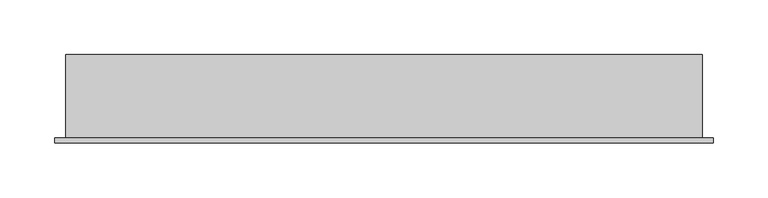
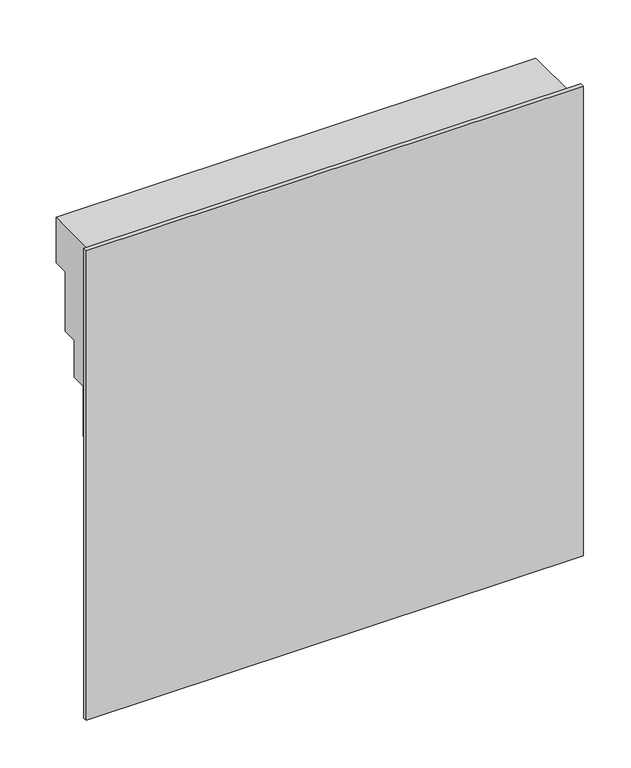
"""IFC4 building model written with IfcOpenShell, lengths in millimetres: plate geometry, Construction_Ceilings_Qwel-Tiles_Terra-Molded-Acoustic-Ceiling-Tiles : Terra (Charcoal Heather)."""

from ifc_helpers import new_model, si_unit, frame, origin, place, context, project, spatial, polyline, circle_curve, outline, extrude, source, transform, mapped, element, save
from ifc_brep_helpers import plane_surface, revolved_surface, advanced_brep


def plate_3a2f0570(model_context):
    return source(origin(), model_context, "Body", "SolidModel", [
        advanced_brep(
        [(290.8101563, 4.9609375, 595.6101563), (290.8101563, 81.1082644, 595.6101563), (-290.8101562, 81.1082644, 595.6101563), (-290.8101562, 4.9609375, 595.6101563), (290.8101562, 4.9609375, 13.9898438), (-290.8101562, 4.9609375, 13.9898438), (-290.8101562, 5.3578125, 13.9898438), (45.2139594, 5.3578125, 13.9898438), (45.2139594, 24.0011217, 13.9898438), (108.7057833, 24.0011217, 13.9898438), (108.7057833, 43.0511081, 13.9898438), (156.3229695, 43.0511081, 13.9898438), (156.3229695, 62.1010648, 13.9898438), (232.5082728, 62.1010648, 13.9898438), (232.5082728, 81.1082644, 13.9898438), (290.8101562, 81.1082644, 13.9898438), (232.5082728, 81.1082644, 321.0691428), (16.2765586, 81.1082644, 537.3008571), (-290.8101562, 81.1082644, 537.3008571), (232.5082728, 62.1010648, 321.0691428), (156.3229695, 62.1010648, 321.0691428), (16.2765586, 62.1010648, 461.1155537), (-290.8101563, 62.1010648, 461.1155537), (-290.8101562, 62.1010648, 537.3008571), (16.2765586, 62.1010648, 537.3008571), (156.3229695, 43.0511081, 321.0691428), (108.7057833, 43.0511081, 321.0691428), (16.2765586, 43.0511081, 413.4983676), (-290.8101563, 43.0511081, 413.4983676), (-290.8101562, 43.0511081, 461.1155537), (16.2765586, 43.0511081, 461.1155537), (108.7057833, 24.0011217, 321.0691428), (16.2765586, 24.0011217, 413.4983676), (-290.8101563, 24.0011217, 413.4983676), (45.2139594, 24.0011217, 321.0691428), (16.2765586, 24.0011217, 350.0065436), (-290.8101563, 24.0011217, 350.0065436), (45.2139594, 5.3578125, 321.0691428), (16.2765586, 5.3578125, 350.0065436), (-290.8101563, 5.3578125, 350.0065436)],
        [
            (0, 1),
            (1, 2),
            (2, 3),
            (3, 0),
            (4, 5),
            (5, 6),
            (6, 7),
            (7, 8),
            (8, 9),
            (9, 10),
            (10, 11),
            (11, 12),
            (12, 13),
            (13, 14),
            (14, 15),
            (15, 4),
            (3, 5),
            (4, 0),
            (1, 15),
            (14, 16),
            (16, 17, circle_curve(frame((16.2765586, 81.1082644, 321.0691428), z_axis=(0.0, -1.0, 0.0), x_axis=(1.0, 0.0, 0.0)), 216.2317143)),
            (17, 18),
            (18, 2),
            (13, 19),
            (19, 16),
            (12, 20),
            (20, 21, circle_curve(frame((16.2765586, 62.1010648, 321.0691428), z_axis=(0.0, -1.0, 0.0), x_axis=(1.0, 0.0, 0.0)), 140.0464109)),
            (21, 22),
            (22, 23),
            (23, 24),
            (24, 19, circle_curve(frame((16.2765586, 62.1010648, 321.0691428), z_axis=(0.0, 1.0, 0.0), x_axis=(1.0, 0.0, 0.0)), 216.2317143)),
            (11, 25),
            (25, 20),
            (10, 26),
            (26, 27, circle_curve(frame((16.2765586, 43.0511081, 321.0691428), z_axis=(0.0, -1.0, 0.0), x_axis=(1.0, 0.0, 0.0)), 92.4292248)),
            (27, 28),
            (28, 29),
            (29, 30),
            (30, 25, circle_curve(frame((16.2765586, 43.0511081, 321.0691428), z_axis=(0.0, 1.0, 0.0), x_axis=(1.0, 0.0, 0.0)), 140.0464109)),
            (9, 31),
            (31, 26),
            (24, 17),
            (30, 21),
            (31, 32, circle_curve(frame((16.2765586, 24.0011217, 321.0691428), z_axis=(0.0, -1.0, 0.0), x_axis=(1.0, 0.0, 0.0)), 92.4292248)),
            (32, 27),
            (23, 18),
            (29, 22),
            (32, 33),
            (33, 28),
            (8, 34),
            (34, 35, circle_curve(frame((16.2765586, 24.0011217, 321.0691428), z_axis=(0.0, -1.0, 0.0), x_axis=(1.0, 0.0, 0.0)), 28.9374008)),
            (35, 36),
            (36, 33),
            (7, 37),
            (37, 34),
            (37, 38, circle_curve(frame((16.2765586, 5.3578125, 321.0691428), z_axis=(0.0, -1.0, 0.0), x_axis=(1.0, 0.0, 0.0)), 28.9374008)),
            (38, 35),
            (38, 39),
            (39, 36),
            (39, 6),
        ],
        [
            plane_surface(frame((290.8101563, 4.9609375, 595.6101563), z_axis=(0.0, 0.0, 1.0), x_axis=(0.0, 1.0, 0.0))),
            plane_surface(frame((290.8101562, 4.9609375, 13.9898438), z_axis=(0.0, 0.0, -1.0), x_axis=(0.0, -1.0, 0.0))),
            plane_surface(frame((-290.8101562, 4.9609375, 595.6101563), z_axis=(0.0, -1.0, 0.0), x_axis=(0.0, 0.0, -1.0))),
            plane_surface(frame((290.8101563, 81.1082644, 595.6101563), z_axis=(0.0, 1.0, 0.0), x_axis=(0.0, 0.0, -1.0))),
            plane_surface(frame((232.5082728, 81.1082644, 13.9898438), z_axis=(-1.0, 0.0, 0.0), x_axis=(0.0, 0.0, 1.0))),
            plane_surface(frame((232.5082728, 62.1010648, 13.9898438), z_axis=(0.0, 1.0, 0.0), x_axis=(0.0, 0.0, 1.0))),
            plane_surface(frame((156.3229695, 62.1010648, 13.9898438), z_axis=(-1.0, 0.0, 0.0), x_axis=(0.0, 0.0, 1.0))),
            plane_surface(frame((156.3229695, 43.0511081, 13.9898438), z_axis=(0.0, 1.0, 0.0), x_axis=(0.0, 0.0, 1.0))),
            plane_surface(frame((108.7057833, 43.0511081, 13.9898438), z_axis=(-1.0, 0.0, 0.0), x_axis=(0.0, 0.0, 1.0))),
            revolved_surface(polyline([(232.5082729, 62.1010648, 321.0691428), (232.5082729, 81.1082644, 321.0691428)]), (16.2765586, 4.9609375, 321.0691428), (0.0, -1.0, 0.0)),
            revolved_surface(polyline([(156.3229695, 43.0511081, 321.0691428), (156.3229695, 62.1010648, 321.0691428)]), (16.2765586, 4.9609375, 321.0691428), (0.0, -1.0, 0.0)),
            revolved_surface(polyline([(108.7057834, 24.0011217, 321.0691428), (108.7057834, 43.0511081, 321.0691428)]), (16.2765586, 4.9609375, 321.0691428), (0.0, -1.0, 0.0)),
            plane_surface(frame((16.2765586, 81.1082644, 537.3008571), z_axis=(0.0, 0.0, -1.0), x_axis=(-1.0, 0.0, 0.0))),
            plane_surface(frame((16.2765586, 62.1010648, 461.1155537), z_axis=(0.0, 0.0, -1.0), x_axis=(-1.0, 0.0, 0.0))),
            plane_surface(frame((16.2765586, 43.0511081, 413.4983676), z_axis=(0.0, 0.0, -1.0), x_axis=(-1.0, 0.0, 0.0))),
            plane_surface(frame((108.7057833, 24.0011217, 13.9898438), z_axis=(0.0, 1.0, 0.0), x_axis=(0.0, 0.0, 1.0))),
            plane_surface(frame((45.2139594, 24.0011217, 13.9898438), z_axis=(-1.0, 0.0, 0.0), x_axis=(0.0, 0.0, 1.0))),
            revolved_surface(polyline([(45.2139594, 5.3578125, 321.0691428), (45.2139594, 24.0011217, 321.0691428)]), (16.2765586, 4.9609375, 321.0691428), (0.0, -1.0, 0.0)),
            plane_surface(frame((16.2765586, 24.0011217, 350.0065436), z_axis=(0.0, 0.0, -1.0), x_axis=(-1.0, 0.0, 0.0))),
            plane_surface(frame((290.8101563, 4.9609375, 595.6101563), z_axis=(1.0, 0.0, 0.0), x_axis=(0.0, 0.0, -1.0))),
            plane_surface(frame((-290.8101562, 81.1082644, 595.6101563), z_axis=(-1.0, 0.0, 0.0), x_axis=(0.0, 0.0, -1.0))),
            plane_surface(frame((45.2139594, 5.3578125, 13.9898438), z_axis=(0.0, 1.0, 0.0), x_axis=(0.0, 0.0, 1.0))),
        ],
        [
            (0, [[1, 2, 3, 4]]),
            (1, [[5, 6, 7, 8, 9, 10, 11, 12, 13, 14, 15, 16]]),
            (2, [[-4, 17, -5, 18]]),
            (3, [[-2, 19, -15, 20, 21, 22, 23]]),
            (4, [[24, 25, -20, -14]]),
            (5, [[-24, -13, 26, 27, 28, 29, 30, 31]]),
            (6, [[-26, -12, 32, 33]]),
            (7, [[-32, -11, 34, 35, 36, 37, 38, 39]]),
            (8, [[-34, -10, 40, 41]]),
            (9, [[-25, -31, 42, -21]]),
            (10, [[-27, -33, -39, 43]]),
            (11, [[-35, -41, 44, 45]]),
            (12, [[-30, 46, -22, -42]]),
            (13, [[-28, -43, -38, 47]]),
            (14, [[-36, -45, 48, 49]]),
            (15, [[-40, -9, 50, 51, 52, 53, -48, -44]]),
            (16, [[-50, -8, 54, 55]]),
            (17, [[-51, -55, 56, 57]]),
            (18, [[-52, -57, 58, 59]]),
            (19, [[-1, -18, -16, -19]]),
            (20, [[-3, -23, -46, -29, -47, -37, -49, -53, -59, 60, -6, -17]]),
            (21, [[-54, -7, -60, -58, -56]]),
        ],
    ),
        extrude(outline(polyline([(300.99, 0.0), (-300.99, 0.0), (-300.99, 4.9609375), (300.99, 4.9609375), (300.99, 0.0)])), frame((0.0, 0.0, 3.81), z_axis=(0.0, 0.0, 1.0), x_axis=(1.0, 0.0, 0.0)), (0.0, 0.0, 1.0), 601.98),
    ])


if __name__ == "__main__":
    model = new_model("IFC4")
    model_context = context("Model", 3, world=origin())
    ifc_project = project(units=[si_unit("LENGTHUNIT", "METRE", prefix="MILLI")], contexts=[model_context])
    site = spatial("IfcSite", under=ifc_project)
    building = spatial("IfcBuilding", under=site)
    placement = place(None, origin())
    plate_shape = plate_3a2f0570(model_context)
    element("IfcPlate", 1, ObjectType="Construction_Ceilings_Qwel-Tiles_Terra-Molded-Acoustic-Ceiling-Tiles : Terra (Charcoal Heather)", at=placement, inside=building, context=model_context, shape_type="MappedRepresentation", body=[
        mapped(plate_shape, transform((0.0, 0.0, 0.0), x_axis=(1.0, 0.0, 0.0), y_axis=(0.0, 1.0, 0.0), z_axis=(0.0, 0.0, 1.0))),
    ])
    save(model, "model.ifc")
